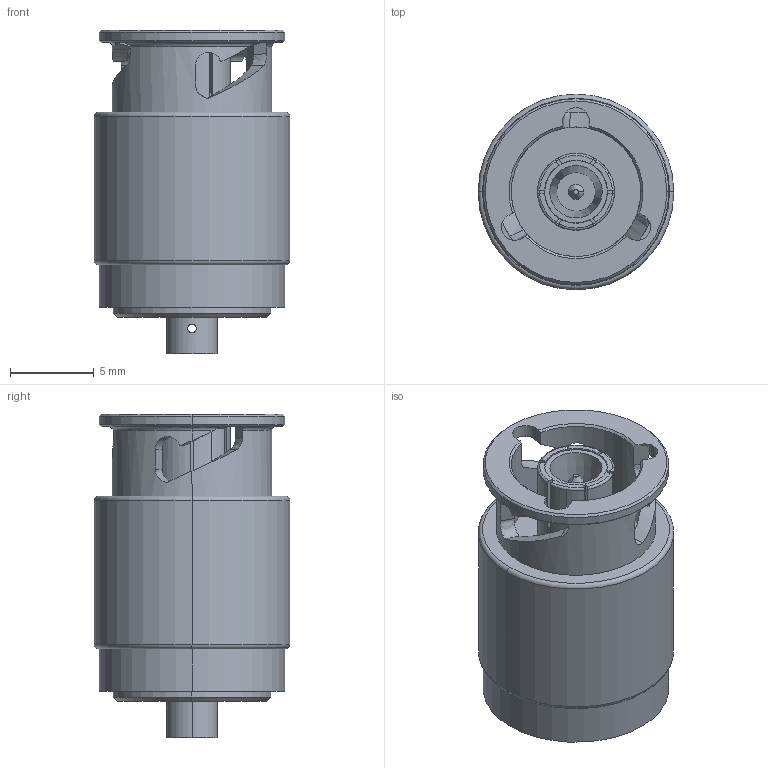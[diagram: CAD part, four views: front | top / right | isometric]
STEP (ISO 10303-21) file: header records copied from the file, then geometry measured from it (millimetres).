
FILE_DESCRIPTION (( 'STEP AP214' ), '1' );
FILE_NAME ('SF8711-6003.STEP', '2018-08-14T12:21:58', ( '' ), ( '' ), 'SwSTEP 2.0', 'SolidWorks 2016', '' );
FILE_SCHEMA (( 'AUTOMOTIVE_DESIGN' ));
Length unit declared in the file: inch
Products named in the file (1): SF8711-6003
Bounding box: 11.68 x 11.68 x 19.34 mm (x, y, z)
Volume: 1414.9 mm3; surface area: 1178.7 mm2
Topology: 1 solids, 1 shells, 173 faces, 463 edges, 303 vertices
Faces by surface type: plane 60, cylinder 54, bspline 24, cone 20, torus 15
Entity records: 8237 total; most frequent: CARTESIAN_POINT 1936, ORIENTED_EDGE 926, DIRECTION 809, EDGE_CURVE 463, AXIS2_PLACEMENT_3D 310, VERTEX_POINT 303, EDGE_LOOP 194, LINE 189
